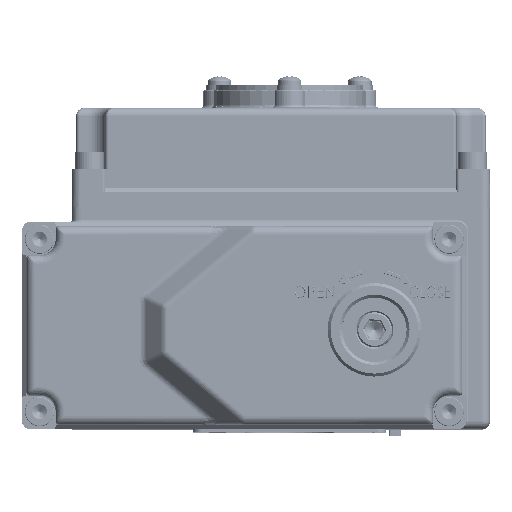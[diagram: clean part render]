
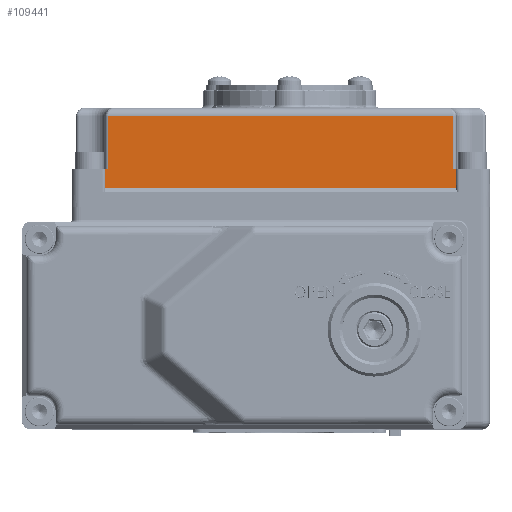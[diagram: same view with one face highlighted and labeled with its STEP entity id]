
A CAD part, top view. The second image highlights one B-rep face of the part: STEP entity #109441.
In plain terms, the highlighted planar face has unit normal (0, 0, 1).
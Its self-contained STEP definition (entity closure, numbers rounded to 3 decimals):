
#18540 = CARTESIAN_POINT ( 'NONE',  ( -60., 34., 39.5 ) ) ;
#18558 = FACE_OUTER_BOUND ( 'NONE', #163206, .T. ) ;
#18560 = PLANE ( 'NONE',  #19949 ) ;
#18567 = DIRECTION ( 'NONE',  ( 0., 0., -1. ) ) ;
#18569 = DIRECTION ( 'NONE',  ( -1., 0., 0. ) ) ;
#19949 = AXIS2_PLACEMENT_3D ( 'NONE', #18540, #18567, #18569 ) ;
#20194 = VECTOR ( 'NONE', #22703, 1000. ) ;
#20207 = VECTOR ( 'NONE', #22719, 1000. ) ;
#20309 = VECTOR ( 'NONE', #22928, 1000. ) ;
#20329 = VECTOR ( 'NONE', #23028, 1000. ) ;
#20370 = VECTOR ( 'NONE', #23142, 1000. ) ;
#20463 = VECTOR ( 'NONE', #49024, 1000. ) ;
#21002 = VECTOR ( 'NONE', #61170, 1000. ) ;
#21008 = VECTOR ( 'NONE', #61239, 1000. ) ;
#22693 = LINE ( 'NONE', #22701, #20194 ) ;
#22701 = CARTESIAN_POINT ( 'NONE',  ( -60., 6.5, 39.5 ) ) ;
#22703 = DIRECTION ( 'NONE',  ( 1., 0., 0. ) ) ;
#22717 = LINE ( 'NONE', #22718, #20207 ) ;
#22718 = CARTESIAN_POINT ( 'NONE',  ( -60., 34., 39.5 ) ) ;
#22719 = DIRECTION ( 'NONE',  ( 0., -1., 0. ) ) ;
#22926 = LINE ( 'NONE', #22927, #20309 ) ;
#22927 = CARTESIAN_POINT ( 'NONE',  ( 60., 34., 39.5 ) ) ;
#22928 = DIRECTION ( 'NONE',  ( 0., -1., 0. ) ) ;
#23026 = LINE ( 'NONE', #23027, #20329 ) ;
#23027 = CARTESIAN_POINT ( 'NONE',  ( -60., 31., 39.5 ) ) ;
#23028 = DIRECTION ( 'NONE',  ( -1., 0., 0. ) ) ;
#23140 = LINE ( 'NONE', #23141, #20370 ) ;
#23141 = CARTESIAN_POINT ( 'NONE',  ( -59., 34., 39.5 ) ) ;
#23142 = DIRECTION ( 'NONE',  ( 0., -1., 0. ) ) ;
#49018 = LINE ( 'NONE', #49022, #20463 ) ;
#49022 = CARTESIAN_POINT ( 'NONE',  ( 59., 34., 39.5 ) ) ;
#49024 = DIRECTION ( 'NONE',  ( 0., 1., 0. ) ) ;
#61149 = LINE ( 'NONE', #61167, #21002 ) ;
#61167 = CARTESIAN_POINT ( 'NONE',  ( -68.5, 13., 39.5 ) ) ;
#61170 = DIRECTION ( 'NONE',  ( -1., 0., 0. ) ) ;
#61223 = LINE ( 'NONE', #61236, #21008 ) ;
#61236 = CARTESIAN_POINT ( 'NONE',  ( 68.5, 13., 39.5 ) ) ;
#61239 = DIRECTION ( 'NONE',  ( -1., 0., 0. ) ) ;
#109441 = ADVANCED_FACE ( 'NONE', ( #18558 ), #18560, .F. ) ;
#109971 = EDGE_CURVE ( 'NONE', #188951, #188868, #22693, .T. ) ;
#109984 = EDGE_CURVE ( 'NONE', #189183, #188951, #22717, .T. ) ;
#110163 = EDGE_CURVE ( 'NONE', #188949, #188868, #22926, .T. ) ;
#110225 = EDGE_CURVE ( 'NONE', #188881, #189472, #23026, .T. ) ;
#110303 = EDGE_CURVE ( 'NONE', #189472, #189187, #23140, .T. ) ;
#110476 = EDGE_CURVE ( 'NONE', #189406, #188881, #49018, .T. ) ;
#111612 = EDGE_CURVE ( 'NONE', #189187, #189183, #61149, .T. ) ;
#111641 = EDGE_CURVE ( 'NONE', #188949, #189406, #61223, .T. ) ;
#131227 = CARTESIAN_POINT ( 'NONE',  ( 60., 6.5, 39.5 ) ) ;
#131235 = CARTESIAN_POINT ( 'NONE',  ( 59., 31., 39.5 ) ) ;
#131279 = CARTESIAN_POINT ( 'NONE',  ( 60., 13., 39.5 ) ) ;
#131281 = CARTESIAN_POINT ( 'NONE',  ( -60., 6.5, 39.5 ) ) ;
#131433 = CARTESIAN_POINT ( 'NONE',  ( -60., 13., 39.5 ) ) ;
#131435 = CARTESIAN_POINT ( 'NONE',  ( -59., 13., 39.5 ) ) ;
#131556 = CARTESIAN_POINT ( 'NONE',  ( 59., 13., 39.5 ) ) ;
#131592 = CARTESIAN_POINT ( 'NONE',  ( -59., 31., 39.5 ) ) ;
#163206 = EDGE_LOOP ( 'NONE', ( #190603, #190600, #190618, #190612, #190629, #190626, #190639, #190632 ) ) ;
#188868 = VERTEX_POINT ( 'NONE', #131227 ) ;
#188881 = VERTEX_POINT ( 'NONE', #131235 ) ;
#188949 = VERTEX_POINT ( 'NONE', #131279 ) ;
#188951 = VERTEX_POINT ( 'NONE', #131281 ) ;
#189183 = VERTEX_POINT ( 'NONE', #131433 ) ;
#189187 = VERTEX_POINT ( 'NONE', #131435 ) ;
#189406 = VERTEX_POINT ( 'NONE', #131556 ) ;
#189472 = VERTEX_POINT ( 'NONE', #131592 ) ;
#190600 = ORIENTED_EDGE ( 'NONE', *, *, #110225, .T. ) ;
#190603 = ORIENTED_EDGE ( 'NONE', *, *, #110476, .T. ) ;
#190612 = ORIENTED_EDGE ( 'NONE', *, *, #111612, .T. ) ;
#190618 = ORIENTED_EDGE ( 'NONE', *, *, #110303, .T. ) ;
#190626 = ORIENTED_EDGE ( 'NONE', *, *, #109971, .T. ) ;
#190629 = ORIENTED_EDGE ( 'NONE', *, *, #109984, .T. ) ;
#190632 = ORIENTED_EDGE ( 'NONE', *, *, #111641, .T. ) ;
#190639 = ORIENTED_EDGE ( 'NONE', *, *, #110163, .F. ) ;
